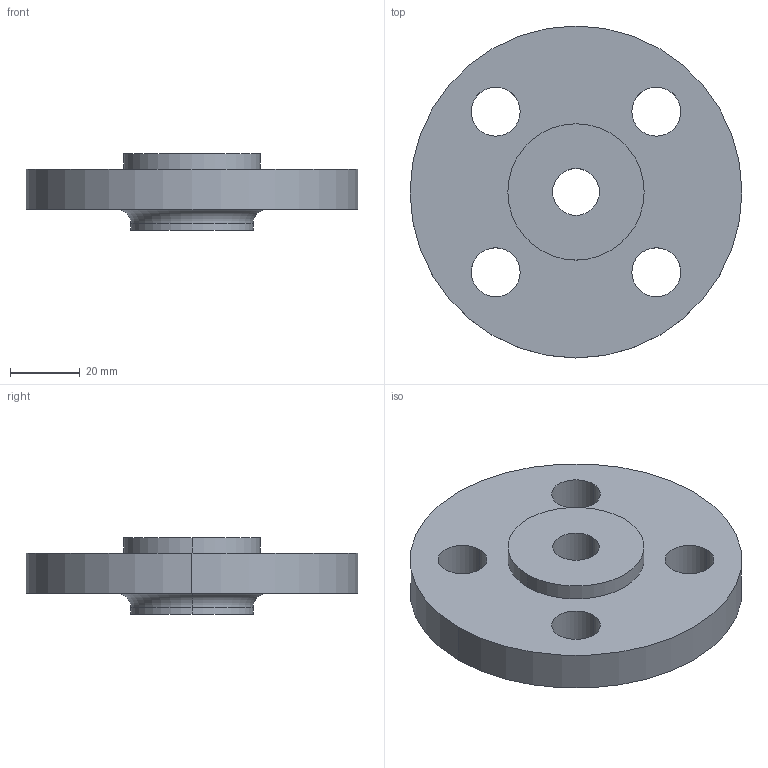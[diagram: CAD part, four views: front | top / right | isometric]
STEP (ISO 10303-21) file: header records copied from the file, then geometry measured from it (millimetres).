
FILE_DESCRIPTION (( 'STEP AP214' ), '1' );
FILE_NAME ('PN40 DN15 Type 13 - Type E Face.STEP', '2018-12-29T14:33:50', ( '' ), ( '' ), 'SwSTEP 2.0', 'SolidWorks 2019', '' );
FILE_SCHEMA (( 'AUTOMOTIVE_DESIGN' ));
Length unit declared in the file: millimetre
Products named in the file (1): PN40 DN15 Type 13 - Type E Face
Bounding box: 95 x 95 x 22 mm (x, y, z)
Volume: 82887 mm3; surface area: 20073.2 mm2
Topology: 1 solids, 1 shells, 22 faces, 52 edges, 34 vertices
Faces by surface type: cylinder 16, plane 4, torus 2
Entity records: 710 total; most frequent: DIRECTION 134, CARTESIAN_POINT 109, ORIENTED_EDGE 104, AXIS2_PLACEMENT_3D 59, EDGE_CURVE 52, CIRCLE 36, VERTEX_POINT 34, EDGE_LOOP 34
